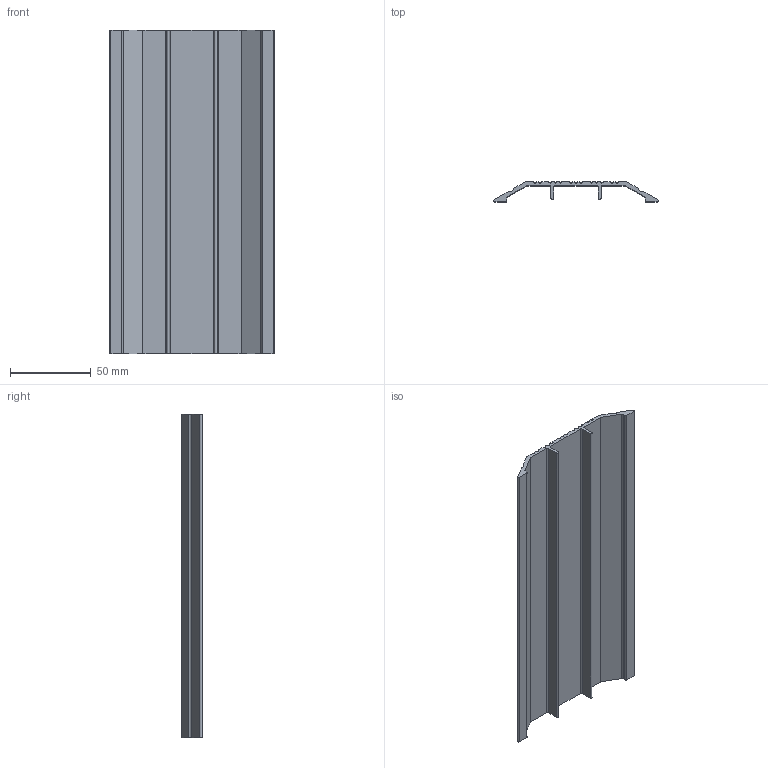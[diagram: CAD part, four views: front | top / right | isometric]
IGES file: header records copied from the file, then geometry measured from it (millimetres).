
Global section: file name: No Iges File Name specified; native system: Autodesk Inventor 2012; preprocessor: AutoDesk Inventor Iges Exporter R2012; author: anna.b; date: 20130614.101005; units: millimetre
Bounding box: 101.6 x 12.5 x 200 mm (x, y, z)
Volume: 56767.2 mm3; surface area: 53103.8 mm2
Topology: 1 solids, 1 shells, 93 faces, 273 edges, 182 vertices
Faces by surface type: cylinder 37, plane 33, revolution 23
